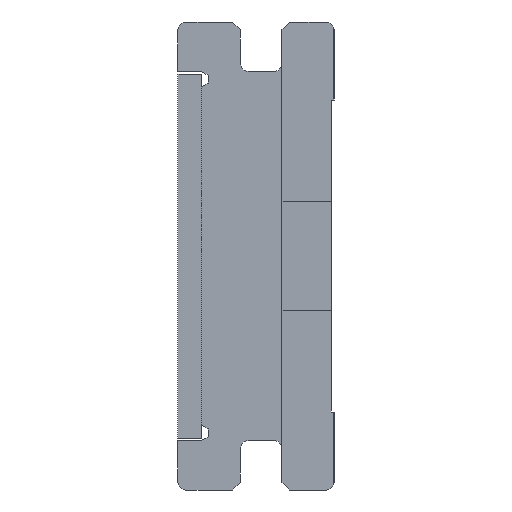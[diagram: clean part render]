
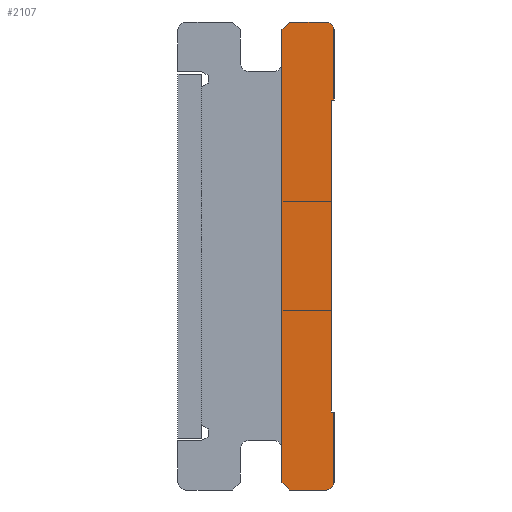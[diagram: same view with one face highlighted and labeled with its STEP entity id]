
A CAD part, left-side view. The second image highlights one B-rep face of the part: STEP entity #2107.
In plain terms, the highlighted planar face has unit normal (-1, 0, 0).
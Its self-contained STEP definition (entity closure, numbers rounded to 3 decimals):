
#1 = ORIENTED_EDGE ( 'NONE', *, *, #488, .F. ) ;
#2 = DIRECTION ( 'NONE',  ( 1., 0., 0. ) ) ;
#146 = LINE ( 'NONE', #160, #2296 ) ;
#150 = VECTOR ( 'NONE', #1587, 1000. ) ;
#160 = CARTESIAN_POINT ( 'NONE',  ( 0., 0.3, -18. ) ) ;
#189 = LINE ( 'NONE', #610, #1907 ) ;
#204 = EDGE_CURVE ( 'NONE', #759, #580, #189, .T. ) ;
#229 = LINE ( 'NONE', #2116, #302 ) ;
#239 = VERTEX_POINT ( 'NONE', #2285 ) ;
#243 = EDGE_CURVE ( 'NONE', #580, #601, #575, .T. ) ;
#302 = VECTOR ( 'NONE', #1150, 1000. ) ;
#337 = EDGE_CURVE ( 'NONE', #1650, #2297, #2365, .T. ) ;
#378 = ORIENTED_EDGE ( 'NONE', *, *, #204, .F. ) ;
#382 = CARTESIAN_POINT ( 'NONE',  ( 0., 0.3, -17.7 ) ) ;
#397 = DIRECTION ( 'NONE',  ( 0., 0., -1. ) ) ;
#445 = VECTOR ( 'NONE', #2071, 1000. ) ;
#488 = EDGE_CURVE ( 'NONE', #2039, #2130, #680, .T. ) ;
#491 = DIRECTION ( 'NONE',  ( 0., -0.707, 0.707 ) ) ;
#502 = CARTESIAN_POINT ( 'NONE',  ( 0., 0.1, -15. ) ) ;
#566 = ORIENTED_EDGE ( 'NONE', *, *, #2080, .F. ) ;
#575 = LINE ( 'NONE', #2106, #1371 ) ;
#578 = VERTEX_POINT ( 'NONE', #1913 ) ;
#580 = VERTEX_POINT ( 'NONE', #2461 ) ;
#601 = VERTEX_POINT ( 'NONE', #2311 ) ;
#609 = LINE ( 'NONE', #2172, #2326 ) ;
#610 = CARTESIAN_POINT ( 'NONE',  ( 0., 0., -15. ) ) ;
#621 = CARTESIAN_POINT ( 'NONE',  ( 0., 0.1, -3. ) ) ;
#631 = VERTEX_POINT ( 'NONE', #2182 ) ;
#637 = CARTESIAN_POINT ( 'NONE',  ( 0., 1.7, -18. ) ) ;
#675 = AXIS2_PLACEMENT_3D ( 'NONE', #382, #2, #397 ) ;
#680 = LINE ( 'NONE', #1855, #445 ) ;
#759 = VERTEX_POINT ( 'NONE', #502 ) ;
#763 = EDGE_CURVE ( 'NONE', #2130, #759, #1852, .T. ) ;
#783 = EDGE_LOOP ( 'NONE', ( #1491, #1547, #2288, #566, #1143, #1532, #378, #1815, #1, #2457, #1519, #1304 ) ) ;
#823 = LINE ( 'NONE', #637, #150 ) ;
#886 = DIRECTION ( 'NONE',  ( 0., 1., 0. ) ) ;
#943 = VECTOR ( 'NONE', #1195, 1000. ) ;
#959 = VERTEX_POINT ( 'NONE', #1940 ) ;
#967 = VECTOR ( 'NONE', #1247, 1000. ) ;
#1049 = CIRCLE ( 'NONE', #2442, 0.3 ) ;
#1068 = VERTEX_POINT ( 'NONE', #1508 ) ;
#1112 = PLANE ( 'NONE',  #1139 ) ;
#1139 = AXIS2_PLACEMENT_3D ( 'NONE', #1540, #1342, #1159 ) ;
#1143 = ORIENTED_EDGE ( 'NONE', *, *, #1257, .F. ) ;
#1150 = DIRECTION ( 'NONE',  ( 0., 0., -1. ) ) ;
#1159 = DIRECTION ( 'NONE',  ( 0., 1., 0. ) ) ;
#1195 = DIRECTION ( 'NONE',  ( 0., -1., 0. ) ) ;
#1247 = DIRECTION ( 'NONE',  ( 0., 0., -1. ) ) ;
#1254 = DIRECTION ( 'NONE',  ( 1., 0., 0. ) ) ;
#1257 = EDGE_CURVE ( 'NONE', #601, #1068, #1546, .T. ) ;
#1304 = ORIENTED_EDGE ( 'NONE', *, *, #337, .F. ) ;
#1342 = DIRECTION ( 'NONE',  ( 1., 0., 0. ) ) ;
#1357 = DIRECTION ( 'NONE',  ( 0., 0., -1. ) ) ;
#1371 = VECTOR ( 'NONE', #1357, 1000. ) ;
#1447 = CARTESIAN_POINT ( 'NONE',  ( 0., 0.3, -0.3 ) ) ;
#1459 = EDGE_CURVE ( 'NONE', #578, #239, #823, .T. ) ;
#1491 = ORIENTED_EDGE ( 'NONE', *, *, #1792, .F. ) ;
#1508 = CARTESIAN_POINT ( 'NONE',  ( 0., 0.3, -18. ) ) ;
#1516 = DIRECTION ( 'NONE',  ( 0., -1., 0. ) ) ;
#1519 = ORIENTED_EDGE ( 'NONE', *, *, #1608, .F. ) ;
#1532 = ORIENTED_EDGE ( 'NONE', *, *, #243, .F. ) ;
#1540 = CARTESIAN_POINT ( 'NONE',  ( 0., 5.1, -15.8 ) ) ;
#1546 = CIRCLE ( 'NONE', #675, 0.3 ) ;
#1547 = ORIENTED_EDGE ( 'NONE', *, *, #1694, .F. ) ;
#1587 = DIRECTION ( 'NONE',  ( 0., 0.707, 0.707 ) ) ;
#1608 = EDGE_CURVE ( 'NONE', #2297, #959, #1049, .T. ) ;
#1640 = CARTESIAN_POINT ( 'NONE',  ( 0., 0.1, -3. ) ) ;
#1644 = FACE_OUTER_BOUND ( 'NONE', #783, .T. ) ;
#1650 = VERTEX_POINT ( 'NONE', #2423 ) ;
#1674 = CARTESIAN_POINT ( 'NONE',  ( 0., 0., -3. ) ) ;
#1694 = EDGE_CURVE ( 'NONE', #239, #631, #1768, .T. ) ;
#1737 = CARTESIAN_POINT ( 'NONE',  ( 0., 2., -17.7 ) ) ;
#1768 = LINE ( 'NONE', #1737, #2013 ) ;
#1792 = EDGE_CURVE ( 'NONE', #631, #1650, #609, .T. ) ;
#1815 = ORIENTED_EDGE ( 'NONE', *, *, #763, .F. ) ;
#1852 = LINE ( 'NONE', #1640, #967 ) ;
#1855 = CARTESIAN_POINT ( 'NONE',  ( 0., 0., -3. ) ) ;
#1907 = VECTOR ( 'NONE', #1516, 1000. ) ;
#1913 = CARTESIAN_POINT ( 'NONE',  ( 0., 1.7, -18. ) ) ;
#1940 = CARTESIAN_POINT ( 'NONE',  ( 0., 0., -0.3 ) ) ;
#1959 = DIRECTION ( 'NONE',  ( 0., 0., 1. ) ) ;
#1968 = CARTESIAN_POINT ( 'NONE',  ( 0., 0.3, 0. ) ) ;
#2013 = VECTOR ( 'NONE', #1959, 1000. ) ;
#2039 = VERTEX_POINT ( 'NONE', #1674 ) ;
#2071 = DIRECTION ( 'NONE',  ( 0., 1., 0. ) ) ;
#2080 = EDGE_CURVE ( 'NONE', #1068, #578, #146, .T. ) ;
#2106 = CARTESIAN_POINT ( 'NONE',  ( 0., 0., -15. ) ) ;
#2107 = ADVANCED_FACE ( 'NONE', ( #1644 ), #1112, .F. ) ;
#2116 = CARTESIAN_POINT ( 'NONE',  ( 0., 0., -0.3 ) ) ;
#2130 = VERTEX_POINT ( 'NONE', #621 ) ;
#2172 = CARTESIAN_POINT ( 'NONE',  ( 0., 1.7, 0. ) ) ;
#2182 = CARTESIAN_POINT ( 'NONE',  ( 0., 2., -0.3 ) ) ;
#2213 = CARTESIAN_POINT ( 'NONE',  ( 0., 0.3, 0. ) ) ;
#2285 = CARTESIAN_POINT ( 'NONE',  ( 0., 2., -17.7 ) ) ;
#2288 = ORIENTED_EDGE ( 'NONE', *, *, #1459, .F. ) ;
#2296 = VECTOR ( 'NONE', #886, 1000. ) ;
#2297 = VERTEX_POINT ( 'NONE', #2213 ) ;
#2311 = CARTESIAN_POINT ( 'NONE',  ( 0., 0., -17.7 ) ) ;
#2326 = VECTOR ( 'NONE', #491, 1000. ) ;
#2365 = LINE ( 'NONE', #1968, #943 ) ;
#2408 = EDGE_CURVE ( 'NONE', #959, #2039, #229, .T. ) ;
#2423 = CARTESIAN_POINT ( 'NONE',  ( 0., 1.7, 0. ) ) ;
#2442 = AXIS2_PLACEMENT_3D ( 'NONE', #1447, #1254, #2463 ) ;
#2457 = ORIENTED_EDGE ( 'NONE', *, *, #2408, .F. ) ;
#2461 = CARTESIAN_POINT ( 'NONE',  ( 0., 0., -15. ) ) ;
#2463 = DIRECTION ( 'NONE',  ( 0., 0., 1. ) ) ;
